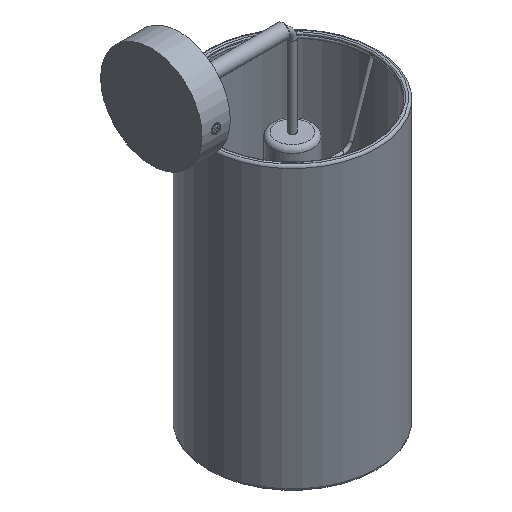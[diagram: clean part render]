
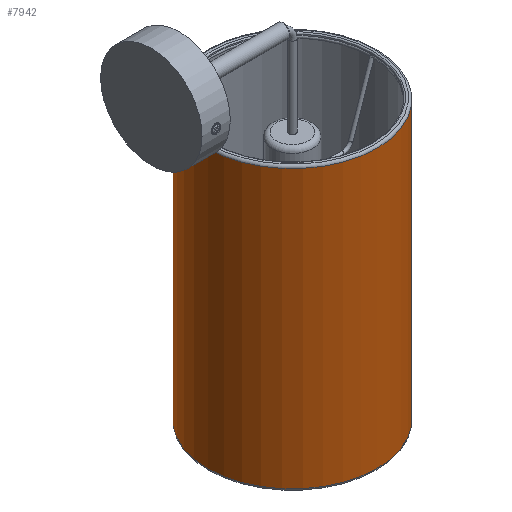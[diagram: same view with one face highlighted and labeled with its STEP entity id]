
A CAD part, isometric view. The second image highlights one B-rep face of the part: STEP entity #7942.
In plain terms, the highlighted cylindrical face has radius 75 mm (diameter 150 mm), a full revolution.
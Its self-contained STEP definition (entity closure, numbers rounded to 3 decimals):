
#1334=LINE('',#28174,#1667);
#1667=VECTOR('',#9654,75.);
#1768=CYLINDRICAL_SURFACE('',#8443,75.);
#2250=FACE_OUTER_BOUND('',#2764,.T.);
#2764=EDGE_LOOP('',(#7185,#7186,#7187,#7188));
#2922=CIRCLE('',#8440,75.);
#2924=CIRCLE('',#8444,75.);
#3671=VERTEX_POINT('',#28166);
#3673=VERTEX_POINT('',#28173);
#4847=EDGE_CURVE('',#3671,#3671,#2922,.T.);
#4849=EDGE_CURVE('',#3671,#3673,#1334,.T.);
#4850=EDGE_CURVE('',#3673,#3673,#2924,.T.);
#7185=ORIENTED_EDGE('',*,*,#4847,.F.);
#7186=ORIENTED_EDGE('',*,*,#4849,.T.);
#7187=ORIENTED_EDGE('',*,*,#4850,.F.);
#7188=ORIENTED_EDGE('',*,*,#4849,.F.);
#7942=ADVANCED_FACE('',(#2250),#1768,.T.);
#8440=AXIS2_PLACEMENT_3D('',#28168,#9646,#9647);
#8443=AXIS2_PLACEMENT_3D('',#28172,#9652,#9653);
#8444=AXIS2_PLACEMENT_3D('',#28175,#9655,#9656);
#9646=DIRECTION('center_axis',(0.,0.,1.));
#9647=DIRECTION('ref_axis',(1.,0.,0.));
#9652=DIRECTION('center_axis',(0.,0.,1.));
#9653=DIRECTION('ref_axis',(1.,0.,0.));
#9654=DIRECTION('',(0.,0.,-1.));
#9655=DIRECTION('center_axis',(0.,0.,-1.));
#9656=DIRECTION('ref_axis',(1.,0.,0.));
#28166=CARTESIAN_POINT('',(-75.,0.,248.));
#28168=CARTESIAN_POINT('Origin',(0.,0.,248.));
#28172=CARTESIAN_POINT('Origin',(0.,0.,0.));
#28173=CARTESIAN_POINT('',(-75.,0.,2.));
#28174=CARTESIAN_POINT('',(-75.,0.,0.));
#28175=CARTESIAN_POINT('Origin',(0.,0.,2.));
